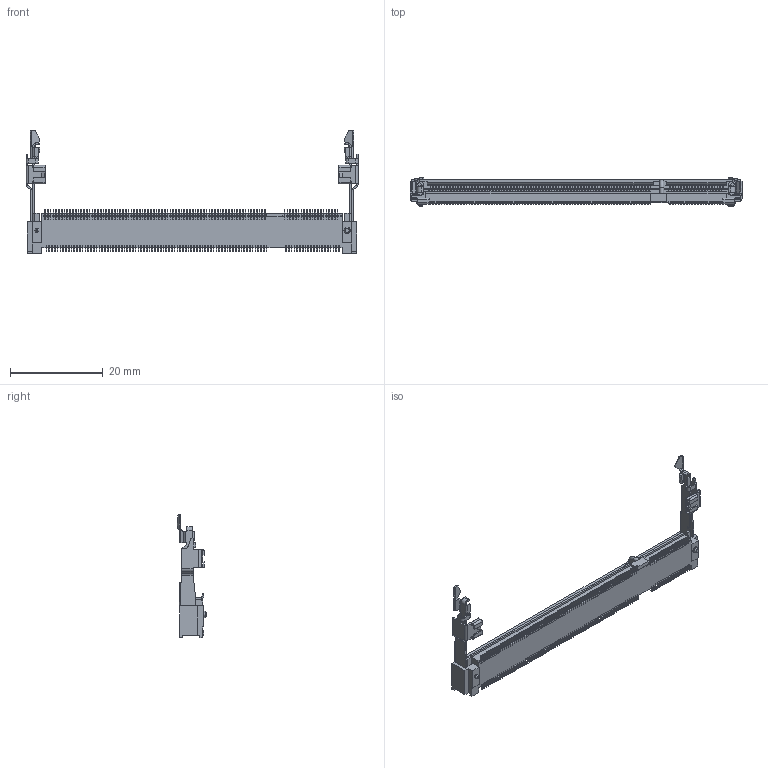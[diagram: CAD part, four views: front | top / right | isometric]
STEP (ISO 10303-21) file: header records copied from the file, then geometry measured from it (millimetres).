
FILE_DESCRIPTION(/* description */ (''),/* implementation_level */ '2;1');
FILE_NAME(/* name */ 'c-1473149-1-k2-3d',/* time_stamp */ '2019-12-31T09:39:05+01:00',/* author */ ('Marco R Bosco'),/* organization */ ('Autonomous Motion System S.L.'),/* preprocessor_version */ 'ST-DEVELOPER v16.7',/* originating_system */ 'Solid Edge',/* authorisation */ 'Unknown');
FILE_SCHEMA (('CONFIG_CONTROL_DESIGN'));
Products named in the file (1): c-1473149-1-k2_1
Bounding box: 71.5 x 6.42 x 26.54 mm (x, y, z)
Volume: 2130.4 mm3; surface area: 3100.4 mm2
Topology: 1 solids, 1 shells, 4145 faces, 12152 edges, 8009 vertices
Faces by surface type: plane 3026, cylinder 1092, bspline 24, cone 2, torus 1
Full cylindrical faces by diameter (mm): 0.85 x1, 1.35 x1
Entity records: 166016 total; most frequent: CARTESIAN_POINT 24995, ORIENTED_EDGE 24292, DIRECTION 22548, EDGE_CURVE 12146, LINE 9934, VECTOR 9934, VERTEX_POINT 8007, AXIS2_PLACEMENT_3D 6307
